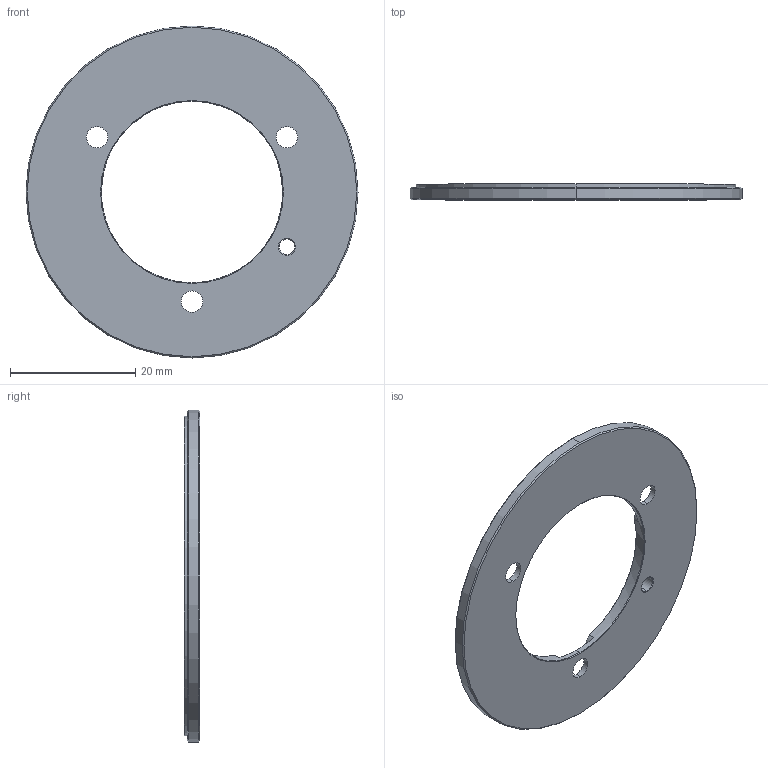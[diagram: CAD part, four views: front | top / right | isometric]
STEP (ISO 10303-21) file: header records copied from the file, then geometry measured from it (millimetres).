
FILE_DESCRIPTION (( 'STEP AP214' ), '1' );
FILE_NAME ('GRR-069-A11-ST.STEP', '2023-03-28T07:05:31', ( '' ), ( '' ), 'SwSTEP 2.0', 'SolidWorks 2021', '' );
FILE_SCHEMA (( 'AUTOMOTIVE_DESIGN' ));
Length unit declared in the file: millimetre
Products named in the file (1): GRR-069-A11-ST
Bounding box: 53 x 2.5 x 53 mm (x, y, z)
Volume: 3232.8 mm3; surface area: 5012.7 mm2
Topology: 2 solids, 2 shells, 79 faces, 188 edges, 115 vertices
Faces by surface type: cylinder 31, cone 27, plane 21
Entity records: 3233 total; most frequent: DIRECTION 439, CARTESIAN_POINT 401, ORIENTED_EDGE 376, EDGE_CURVE 188, AXIS2_PLACEMENT_3D 177, VERTEX_POINT 115, CIRCLE 97, EDGE_LOOP 93
